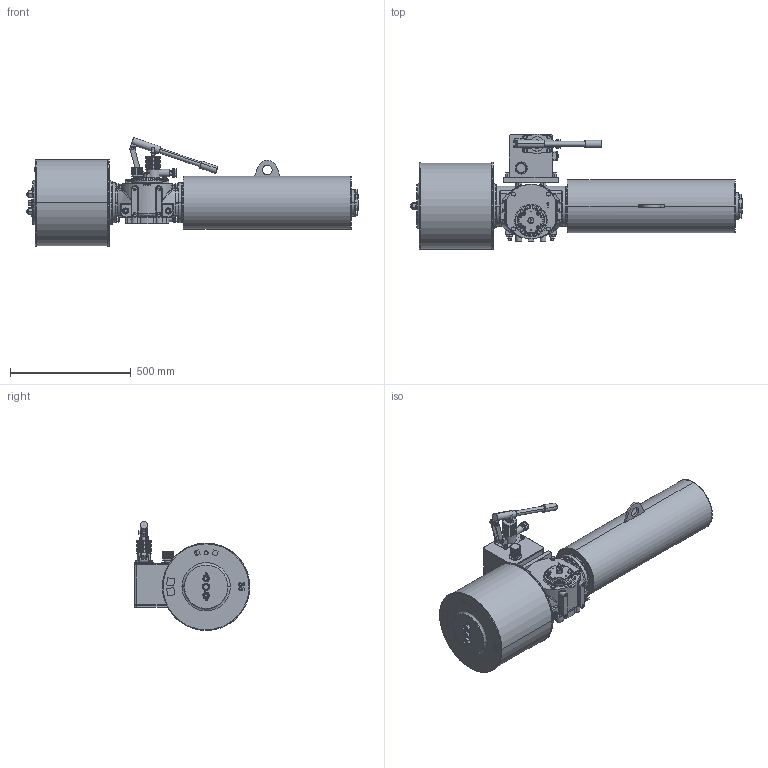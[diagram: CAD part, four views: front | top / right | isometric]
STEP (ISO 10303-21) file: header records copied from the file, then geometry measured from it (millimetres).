
FILE_DESCRIPTION (( 'STEP AP203' ), '1' );
FILE_NAME ('VTS1-350-SR-MH-FC.STEP', '2023-01-01T07:27:36', ( '' ), ( '' ), 'SwSTEP 2.0', 'SolidWorks 2020', '' );
FILE_SCHEMA (( 'CONFIG_CONTROL_DESIGN' ));
Products named in the file (1): VTS1-350-SR-MH-FC
Bounding box: 1374 x 478.9 x 451.27 mm (x, y, z)
Volume: 68189521.9 mm3; surface area: 2251582.3 mm2
Topology: 48 solids, 54 shells, 2491 faces, 6330 edges, 4023 vertices
Faces by surface type: plane 925, cylinder 825, cone 452, bspline 227, torus 34, sphere 28
Entity records: 100651 total; most frequent: CARTESIAN_POINT 43384, ORIENTED_EDGE 12484, DIRECTION 11061, EDGE_CURVE 6242, AXIS2_PLACEMENT_3D 4291, VERTEX_POINT 4023, EDGE_LOOP 2785, ADVANCED_FACE 2491
